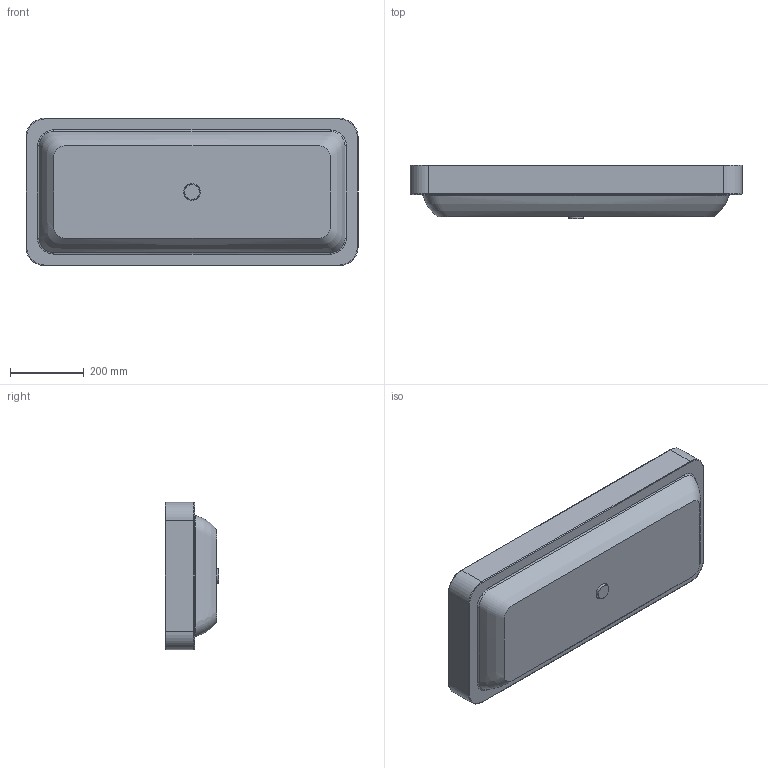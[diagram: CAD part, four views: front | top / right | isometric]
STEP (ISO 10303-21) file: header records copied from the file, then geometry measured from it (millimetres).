
FILE_DESCRIPTION (( 'STEP AP203' ), '1' );
FILE_NAME ('ELLG090400S0.STEP', '2025-05-08T10:32:13', ( '' ), ( '' ), 'SwSTEP 2.0', 'SolidWorks 2024', '' );
FILE_SCHEMA (( 'CONFIG_CONTROL_DESIGN' ));
Length unit declared in the file: millimetre
Products named in the file (3): PILETTA; ELLG090400S0
Assembly tree (2 placements, depth 2):
  ELLG090400S0
    ELLG090400S0
    PILETTA
Bounding box: 900 x 146 x 400 mm (x, y, z)
Volume: 16329534.7 mm3; surface area: 1109418.7 mm2
Topology: 2 solids, 2 shells, 63 faces, 158 edges, 103 vertices
Faces by surface type: bspline 19, cylinder 17, torus 13, plane 11, cone 2, sphere 1
Full cylindrical faces by diameter (mm): 32 x1, 40 x1, 46 x1, 62 x2
Entity records: 6288 total; most frequent: CARTESIAN_POINT 4654, ORIENTED_EDGE 276, DIRECTION 264, EDGE_CURVE 138, AXIS2_PLACEMENT_3D 118, VERTEX_POINT 98, EDGE_LOOP 84, FACE_OUTER_BOUND 76
